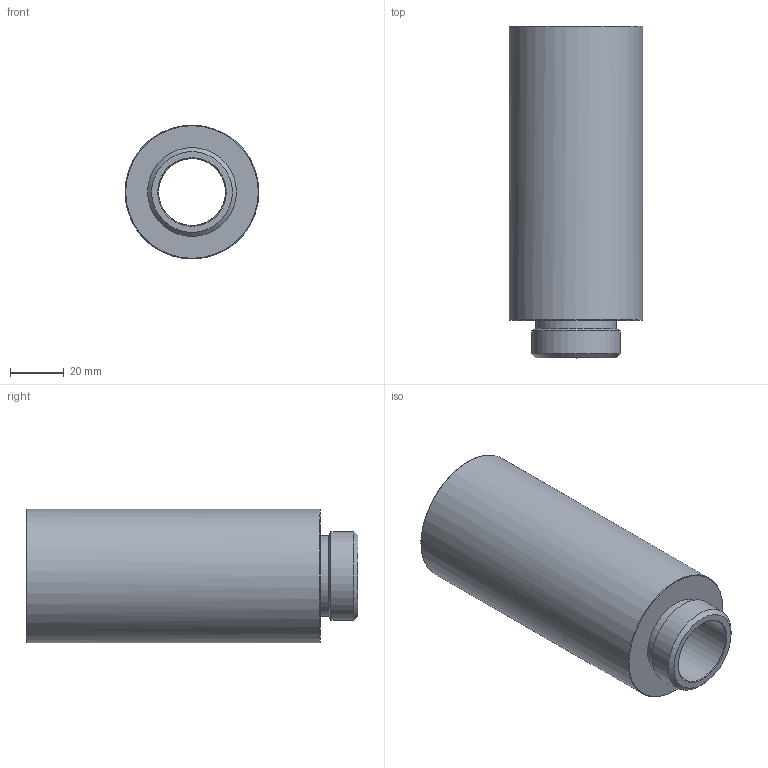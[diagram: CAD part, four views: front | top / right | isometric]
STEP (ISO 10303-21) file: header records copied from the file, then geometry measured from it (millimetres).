
FILE_DESCRIPTION(/* description */ ('SILENZIATORE G1" RIDOTTO'),/* implementation_level */ '2;1');
FILE_NAME(/* name */ 'C:\PNX_VAULTFOLDER\Area Tecnica\Disegni\VARIE-3D\Componenti\1900 (vuoto)\19S10_R.stp',/* time_stamp */ '2019-09-13T14:46:48+02:00',/* author */ ('maniean1'),/* organization */ ('Pneumax S.p.A.'),/* preprocessor_version */ 'ST-DEVELOPER v17',/* originating_system */ 'Autodesk Inventor 2019',/* authorisation */ '');
FILE_SCHEMA (('AUTOMOTIVE_DESIGN { 1 0 10303 214 3 1 1 }'));
Length unit declared in the file: millimetre
Products named in the file (1): 19S10.R
Bounding box: 50 x 124 x 50 mm (x, y, z)
Volume: 166557.6 mm3; surface area: 31480 mm2
Topology: 1 solids, 1 shells, 13 faces, 32 edges, 22 vertices
Faces by surface type: cone 6, cylinder 4, plane 3
Full cylindrical faces by diameter (mm): 25 x1, 30 x1, 33.2 x1, 50 x1
Entity records: 474 total; most frequent: DIRECTION 82, CARTESIAN_POINT 68, ORIENTED_EDGE 64, AXIS2_PLACEMENT_3D 36, EDGE_CURVE 32, CIRCLE 22, VERTEX_POINT 22, EDGE_LOOP 16
